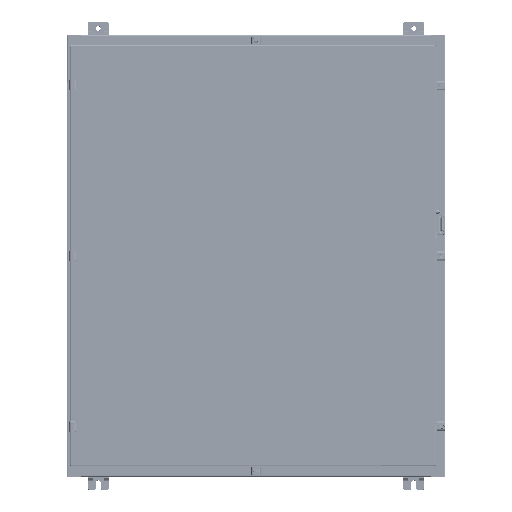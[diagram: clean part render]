
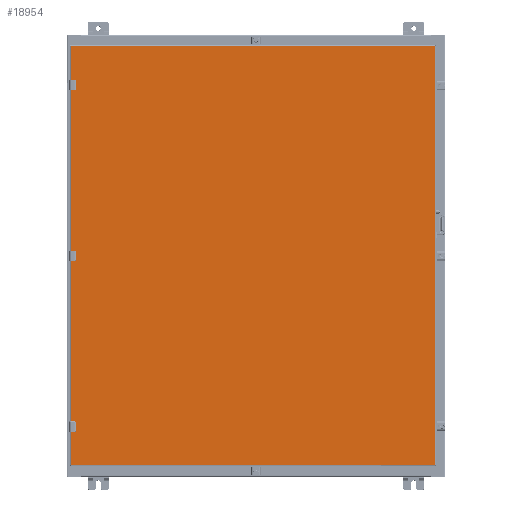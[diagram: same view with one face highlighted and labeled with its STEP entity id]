
A CAD part, top view. The second image highlights one B-rep face of the part: STEP entity #18954.
In plain terms, the highlighted planar face has unit normal (0, 0, 1) as drawn and (0, 1, 0) by its records, which use the part's own axes.
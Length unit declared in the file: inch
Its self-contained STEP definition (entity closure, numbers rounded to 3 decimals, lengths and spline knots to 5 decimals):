
#14128=DIRECTION('',(0.,0.,1.));
#14129=VECTOR('',#14128,34.566);
#14130=CARTESIAN_POINT('',(-19.91438,0.,0.117));
#14131=LINE('',#14130,#14129);
#14210=DIRECTION('',(0.,0.,-1.));
#14211=VECTOR('',#14210,0.3629);
#14212=CARTESIAN_POINT('',(16.59513,0.,34.683));
#14213=LINE('',#14212,#14211);
#14217=DIRECTION('',(-1.,0.,0.));
#14218=VECTOR('',#14217,0.63);
#14219=CARTESIAN_POINT('',(16.56513,0.,34.2901));
#14220=LINE('',#14219,#14218);
#14224=DIRECTION('',(0.,0.,-1.));
#14225=VECTOR('',#14224,0.3629);
#14226=CARTESIAN_POINT('',(15.90513,0.,34.683));
#14227=LINE('',#14226,#14225);
#14231=DIRECTION('',(0.,0.,-1.));
#14232=VECTOR('',#14231,0.3629);
#14233=CARTESIAN_POINT('',(0.345,0.,34.683));
#14234=LINE('',#14233,#14232);
#14238=DIRECTION('',(-1.,0.,0.));
#14239=VECTOR('',#14238,0.63);
#14240=CARTESIAN_POINT('',(0.315,0.,34.2901));
#14241=LINE('',#14240,#14239);
#14245=DIRECTION('',(0.,0.,-1.));
#14246=VECTOR('',#14245,0.3629);
#14247=CARTESIAN_POINT('',(-0.345,0.,34.683));
#14248=LINE('',#14247,#14246);
#14252=DIRECTION('',(0.,0.,-1.));
#14253=VECTOR('',#14252,0.3629);
#14254=CARTESIAN_POINT('',(-15.90513,0.,34.683));
#14255=LINE('',#14254,#14253);
#14259=DIRECTION('',(-1.,0.,0.));
#14260=VECTOR('',#14259,0.63);
#14261=CARTESIAN_POINT('',(-15.93513,0.,34.2901));
#14262=LINE('',#14261,#14260);
#14266=DIRECTION('',(0.,0.,-1.));
#14267=VECTOR('',#14266,0.3629);
#14268=CARTESIAN_POINT('',(-16.59513,0.,34.683));
#14269=LINE('',#14268,#14267);
#14273=DIRECTION('',(0.,0.,1.));
#14274=VECTOR('',#14273,34.566);
#14275=CARTESIAN_POINT('',(19.91438,0.,0.117));
#14276=LINE('',#14275,#14274);
#14448=DIRECTION('',(-1.,0.,0.));
#14449=VECTOR('',#14448,39.82875);
#14450=CARTESIAN_POINT('',(19.91438,0.,0.117));
#14451=LINE('',#14450,#14449);
#16140=DIRECTION('',(-1.,0.,0.));
#16141=VECTOR('',#16140,15.56013);
#16142=CARTESIAN_POINT('',(15.90513,0.,34.683));
#16143=LINE('',#16142,#16141);
#16185=DIRECTION('',(-1.,0.,0.));
#16186=VECTOR('',#16185,15.56013);
#16187=CARTESIAN_POINT('',(-0.345,0.,34.683));
#16188=LINE('',#16187,#16186);
#16228=DIRECTION('',(-1.,0.,0.));
#16229=VECTOR('',#16228,3.31925);
#16230=CARTESIAN_POINT('',(-16.59513,0.,34.683));
#16231=LINE('',#16230,#16229);
#16265=DIRECTION('',(-1.,0.,0.));
#16266=VECTOR('',#16265,3.31925);
#16267=CARTESIAN_POINT('',(19.91438,0.,34.683));
#16268=LINE('',#16267,#16266);
#16286=CARTESIAN_POINT('',(15.93513,0.,34.3201));
#16287=DIRECTION('',(0.,-1.,0.));
#16288=DIRECTION('',(-1.,0.,0.));
#16289=AXIS2_PLACEMENT_3D('',#16286,#16287,#16288);
#16316=CARTESIAN_POINT('',(16.56513,0.,34.3201));
#16317=DIRECTION('',(0.,-1.,0.));
#16318=DIRECTION('',(0.,0.,-1.));
#16319=AXIS2_PLACEMENT_3D('',#16316,#16317,#16318);
#16864=CARTESIAN_POINT('',(-0.315,0.,34.3201));
#16865=DIRECTION('',(0.,-1.,0.));
#16866=DIRECTION('',(-1.,0.,0.));
#16867=AXIS2_PLACEMENT_3D('',#16864,#16865,#16866);
#16894=CARTESIAN_POINT('',(0.315,0.,34.3201));
#16895=DIRECTION('',(0.,-1.,0.));
#16896=DIRECTION('',(0.,0.,-1.));
#16897=AXIS2_PLACEMENT_3D('',#16894,#16895,#16896);
#16984=CARTESIAN_POINT('',(-16.56513,0.,34.3201));
#16985=DIRECTION('',(0.,-1.,0.));
#16986=DIRECTION('',(-1.,0.,0.));
#16987=AXIS2_PLACEMENT_3D('',#16984,#16985,#16986);
#17014=CARTESIAN_POINT('',(-15.93513,0.,34.3201));
#17015=DIRECTION('',(0.,-1.,0.));
#17016=DIRECTION('',(0.,0.,-1.));
#17017=AXIS2_PLACEMENT_3D('',#17014,#17015,#17016);
#17835=CARTESIAN_POINT('',(19.91438,0.,0.117));
#17836=CARTESIAN_POINT('',(-19.91438,0.,0.117));
#17837=VERTEX_POINT('',#17835);
#17838=VERTEX_POINT('',#17836);
#18113=CARTESIAN_POINT('',(-19.91438,0.,34.683));
#18114=VERTEX_POINT('',#18113);
#18123=CARTESIAN_POINT('',(19.91438,0.,34.683));
#18125=VERTEX_POINT('',#18123);
#18316=CARTESIAN_POINT('',(-15.90513,0.,34.683));
#18318=VERTEX_POINT('',#18316);
#18320=CARTESIAN_POINT('',(-16.59513,0.,34.683));
#18322=VERTEX_POINT('',#18320);
#18332=CARTESIAN_POINT('',(16.59513,0.,34.683));
#18334=VERTEX_POINT('',#18332);
#18336=CARTESIAN_POINT('',(15.90513,0.,34.683));
#18338=VERTEX_POINT('',#18336);
#18348=CARTESIAN_POINT('',(0.345,0.,34.683));
#18350=VERTEX_POINT('',#18348);
#18352=CARTESIAN_POINT('',(-0.345,0.,34.683));
#18354=VERTEX_POINT('',#18352);
#18363=CARTESIAN_POINT('',(-16.59513,0.,34.3201));
#18365=VERTEX_POINT('',#18363);
#18367=CARTESIAN_POINT('',(-16.56513,0.,34.2901));
#18369=VERTEX_POINT('',#18367);
#18387=CARTESIAN_POINT('',(-15.93513,0.,34.2901));
#18389=VERTEX_POINT('',#18387);
#18391=CARTESIAN_POINT('',(-15.90513,0.,34.3201));
#18393=VERTEX_POINT('',#18391);
#18395=CARTESIAN_POINT('',(15.90513,0.,34.3201));
#18397=VERTEX_POINT('',#18395);
#18399=CARTESIAN_POINT('',(15.93513,0.,34.2901));
#18401=VERTEX_POINT('',#18399);
#18419=CARTESIAN_POINT('',(16.56513,0.,34.2901));
#18421=VERTEX_POINT('',#18419);
#18423=CARTESIAN_POINT('',(16.59513,0.,34.3201));
#18425=VERTEX_POINT('',#18423);
#18427=CARTESIAN_POINT('',(-0.345,0.,34.3201));
#18429=VERTEX_POINT('',#18427);
#18431=CARTESIAN_POINT('',(-0.315,0.,34.2901));
#18433=VERTEX_POINT('',#18431);
#18451=CARTESIAN_POINT('',(0.315,0.,34.2901));
#18453=VERTEX_POINT('',#18451);
#18455=CARTESIAN_POINT('',(0.345,0.,34.3201));
#18457=VERTEX_POINT('',#18455);
#18904=CARTESIAN_POINT('',(20.03138,0.,0.));
#18905=DIRECTION('',(0.,1.,0.));
#18906=DIRECTION('',(-1.,0.,0.));
#18907=AXIS2_PLACEMENT_3D('',#18904,#18905,#18906);
#18908=PLANE('',#18907);
#18910=ORIENTED_EDGE('',*,*,#18909,.T.);
#18912=ORIENTED_EDGE('',*,*,#18911,.T.);
#18914=ORIENTED_EDGE('',*,*,#18913,.T.);
#18916=ORIENTED_EDGE('',*,*,#18915,.F.);
#18918=ORIENTED_EDGE('',*,*,#18917,.T.);
#18920=ORIENTED_EDGE('',*,*,#18919,.F.);
#18922=ORIENTED_EDGE('',*,*,#18921,.F.);
#18924=ORIENTED_EDGE('',*,*,#18923,.T.);
#18926=ORIENTED_EDGE('',*,*,#18925,.T.);
#18928=ORIENTED_EDGE('',*,*,#18927,.F.);
#18930=ORIENTED_EDGE('',*,*,#18929,.T.);
#18932=ORIENTED_EDGE('',*,*,#18931,.F.);
#18934=ORIENTED_EDGE('',*,*,#18933,.F.);
#18936=ORIENTED_EDGE('',*,*,#18935,.T.);
#18938=ORIENTED_EDGE('',*,*,#18937,.T.);
#18940=ORIENTED_EDGE('',*,*,#18939,.F.);
#18942=ORIENTED_EDGE('',*,*,#18941,.T.);
#18944=ORIENTED_EDGE('',*,*,#18943,.F.);
#18946=ORIENTED_EDGE('',*,*,#18945,.F.);
#18948=ORIENTED_EDGE('',*,*,#18947,.T.);
#18949=ORIENTED_EDGE('',*,*,#18894,.F.);
#18951=ORIENTED_EDGE('',*,*,#18950,.F.);
#18952=EDGE_LOOP('',(#18910,#18912,#18914,#18916,#18918,#18920,#18922,#18924,
#18926,#18928,#18930,#18932,#18934,#18936,#18938,#18940,#18942,#18944,#18946,
#18948,#18949,#18951));
#18953=FACE_OUTER_BOUND('',#18952,.F.);
#16290=CIRCLE('',#16289,0.03);
#16320=CIRCLE('',#16319,0.03);
#16868=CIRCLE('',#16867,0.03);
#16898=CIRCLE('',#16897,0.03);
#16988=CIRCLE('',#16987,0.03);
#17018=CIRCLE('',#17017,0.03);
#18894=EDGE_CURVE('',#17838,#18114,#14131,.T.);
#18909=EDGE_CURVE('',#17837,#18125,#14276,.T.);
#18911=EDGE_CURVE('',#18125,#18334,#16268,.T.);
#18913=EDGE_CURVE('',#18334,#18425,#14213,.T.);
#18915=EDGE_CURVE('',#18421,#18425,#16320,.T.);
#18917=EDGE_CURVE('',#18421,#18401,#14220,.T.);
#18919=EDGE_CURVE('',#18397,#18401,#16290,.T.);
#18921=EDGE_CURVE('',#18338,#18397,#14227,.T.);
#18923=EDGE_CURVE('',#18338,#18350,#16143,.T.);
#18925=EDGE_CURVE('',#18350,#18457,#14234,.T.);
#18927=EDGE_CURVE('',#18453,#18457,#16898,.T.);
#18929=EDGE_CURVE('',#18453,#18433,#14241,.T.);
#18931=EDGE_CURVE('',#18429,#18433,#16868,.T.);
#18933=EDGE_CURVE('',#18354,#18429,#14248,.T.);
#18935=EDGE_CURVE('',#18354,#18318,#16188,.T.);
#18937=EDGE_CURVE('',#18318,#18393,#14255,.T.);
#18939=EDGE_CURVE('',#18389,#18393,#17018,.T.);
#18941=EDGE_CURVE('',#18389,#18369,#14262,.T.);
#18943=EDGE_CURVE('',#18365,#18369,#16988,.T.);
#18945=EDGE_CURVE('',#18322,#18365,#14269,.T.);
#18947=EDGE_CURVE('',#18322,#18114,#16231,.T.);
#18950=EDGE_CURVE('',#17837,#17838,#14451,.T.);
#18954=ADVANCED_FACE('',(#18953),#18908,.T.);
